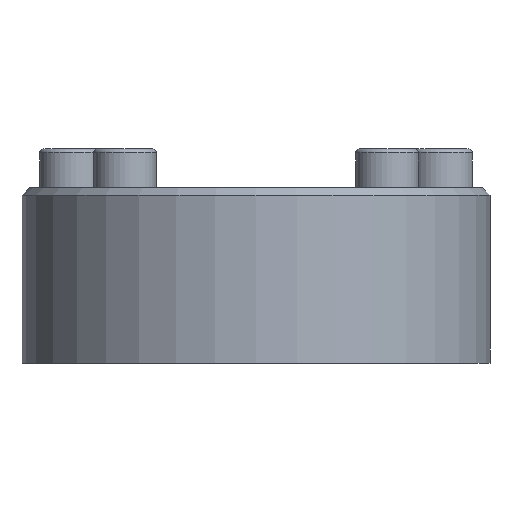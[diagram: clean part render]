
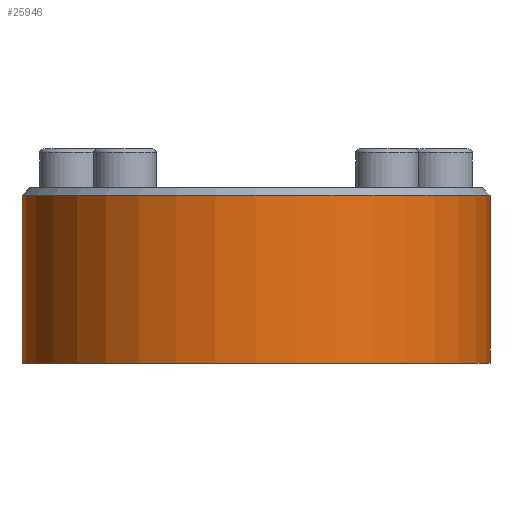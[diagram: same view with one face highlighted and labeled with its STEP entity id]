
A CAD part, front view. The second image highlights one B-rep face of the part: STEP entity #25946.
In plain terms, the highlighted cylindrical face has radius 60 mm (diameter 120 mm), a partial arc.
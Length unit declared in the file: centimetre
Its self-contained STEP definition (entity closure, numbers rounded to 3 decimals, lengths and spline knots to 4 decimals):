
#1523=CYLINDRICAL_SURFACE('',#27360,6.);
#3005=FACE_OUTER_BOUND('',#4498,.T.);
#4498=EDGE_LOOP('',(#19056,#19057,#19058,#19059));
#6618=LINE('',#36882,#9370);
#6619=LINE('',#36885,#9371);
#9370=VECTOR('',#29353,4.3);
#9371=VECTOR('',#29356,4.3);
#11322=CIRCLE('',#27361,6.);
#11323=CIRCLE('',#27362,6.);
#12582=VERTEX_POINT('',#36878);
#12583=VERTEX_POINT('',#36879);
#12584=VERTEX_POINT('',#36881);
#12585=VERTEX_POINT('',#36883);
#15128=EDGE_CURVE('',#12582,#12583,#11322,.T.);
#15129=EDGE_CURVE('',#12582,#12584,#6618,.T.);
#15130=EDGE_CURVE('',#12585,#12584,#11323,.T.);
#15131=EDGE_CURVE('',#12583,#12585,#6619,.T.);
#19056=ORIENTED_EDGE('',*,*,#15128,.F.);
#19057=ORIENTED_EDGE('',*,*,#15129,.T.);
#19058=ORIENTED_EDGE('',*,*,#15130,.F.);
#19059=ORIENTED_EDGE('',*,*,#15131,.F.);
#25946=ADVANCED_FACE('',(#3005),#1523,.T.);
#27360=AXIS2_PLACEMENT_3D('',#36877,#29349,#29350);
#27361=AXIS2_PLACEMENT_3D('',#36880,#29351,#29352);
#27362=AXIS2_PLACEMENT_3D('',#36884,#29354,#29355);
#29349=DIRECTION('center_axis',(0.,0.,
1.));
#29350=DIRECTION('ref_axis',(1.,0.,0.));
#29351=DIRECTION('center_axis',(0.,0.,
-1.));
#29352=DIRECTION('ref_axis',(1.,0.,0.));
#29353=DIRECTION('',(0.,0.,1.));
#29354=DIRECTION('center_axis',(0.,0.,
1.));
#29355=DIRECTION('ref_axis',(-1.,0.,0.));
#29356=DIRECTION('',(0.,0.,1.));
#36877=CARTESIAN_POINT('Origin',(0.,-11.,-3.3));
#36878=CARTESIAN_POINT('',(6.,-11.,-3.3));
#36879=CARTESIAN_POINT('',(-6.,-11.,-3.3));
#36880=CARTESIAN_POINT('Origin',(0.,-11.,-3.3));
#36881=CARTESIAN_POINT('',(6.,-11.,1.));
#36882=CARTESIAN_POINT('',(6.,-11.,-3.3));
#36883=CARTESIAN_POINT('',(-6.,-11.,1.));
#36884=CARTESIAN_POINT('Origin',(0.,-11.,1.));
#36885=CARTESIAN_POINT('',(-6.,-11.,-3.3));
